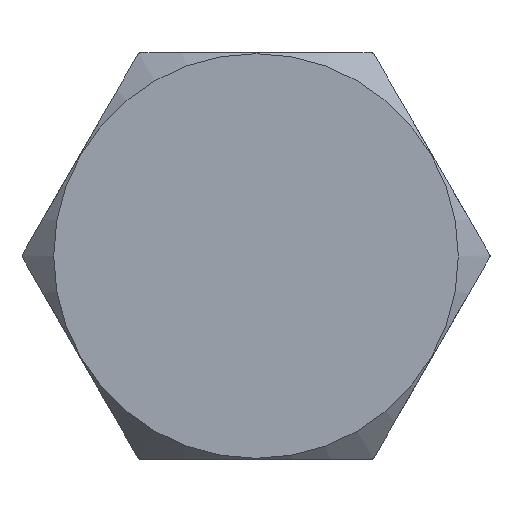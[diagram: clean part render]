
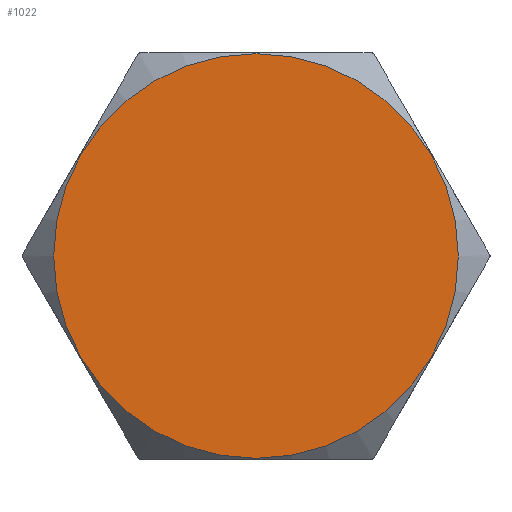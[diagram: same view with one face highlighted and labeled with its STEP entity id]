
A CAD part, front view. The second image highlights one B-rep face of the part: STEP entity #1022.
In plain terms, the highlighted planar face has unit normal (0, -1, 0).
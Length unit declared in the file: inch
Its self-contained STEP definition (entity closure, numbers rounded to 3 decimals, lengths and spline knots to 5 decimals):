
#57=PLANE('',#1169);
#135=FACE_OUTER_BOUND('',#198,.T.);
#198=EDGE_LOOP('',(#858));
#359=CIRCLE('',#1166,0.498);
#467=VERTEX_POINT('',#1879);
#604=EDGE_CURVE('',#467,#467,#359,.T.);
#858=ORIENTED_EDGE('',*,*,#604,.F.);
#1022=ADVANCED_FACE('',(#135),#57,.T.);
#1166=AXIS2_PLACEMENT_3D('',#1880,#1434,#1435);
#1169=AXIS2_PLACEMENT_3D('',#1884,#1441,#1442);
#1434=DIRECTION('center_axis',(0.,1.,0.));
#1435=DIRECTION('ref_axis',(0.,0.,1.));
#1441=DIRECTION('center_axis',(0.,-1.,0.));
#1442=DIRECTION('ref_axis',(0.,0.,-1.));
#1879=CARTESIAN_POINT('',(0.,0.,-0.498));
#1880=CARTESIAN_POINT('Origin',(0.,0.,0.));
#1884=CARTESIAN_POINT('Origin',(0.,0.,0.));
